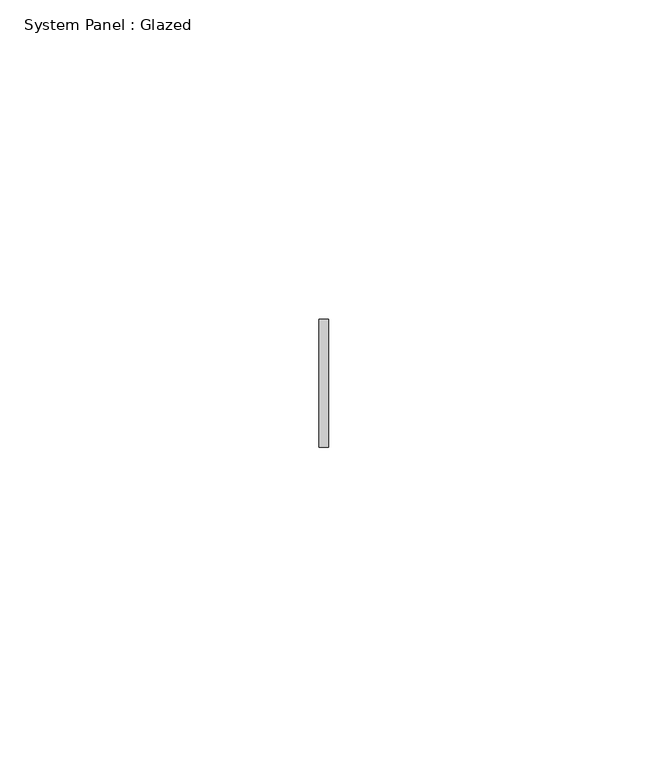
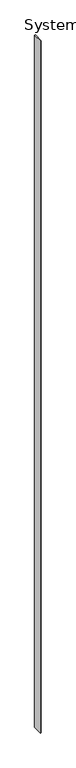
"""IFC4 building model written with IfcOpenShell, lengths in millimetres: plate geometry, System Panel : Glazed."""

from ifc_helpers import new_model, si_unit, origin, origin_with_axes, place, context, project, spatial, polyline, outline, extrude, source, transform, mapped, element, save


def system_panel_glazed_f46b79a8(model_context):
    return source(origin(), model_context, "Body", "SweptSolid", [
        extrude(outline(polyline([(0.7499999, -40.0), (-0.7499999, -40.0), (-0.7499999, -20.0), (0.7499999, -20.0), (0.7499999, -40.0)])), origin_with_axes(), (0.0, 0.0, 1.0), 1500.0),
    ])


if __name__ == "__main__":
    model = new_model("IFC4")
    model_context = context("Model", 3, world=origin())
    ifc_project = project(units=[si_unit("LENGTHUNIT", "METRE", prefix="MILLI")], contexts=[model_context])
    site = spatial("IfcSite", under=ifc_project)
    building = spatial("IfcBuilding", under=site)
    placement = place(None, origin())
    system_panel_glazed_shape = system_panel_glazed_f46b79a8(model_context)
    element("IfcPlate", 1, ObjectType="System Panel : Glazed", at=placement, inside=building, context=model_context, shape_type="MappedRepresentation", body=[
        mapped(system_panel_glazed_shape, transform((0.0, 0.0, 0.0), x_axis=(1.0, 0.0, 0.0), y_axis=(0.0, 1.0, 0.0), z_axis=(0.0, 0.0, 1.0))),
    ])
    save(model, "model.ifc")
